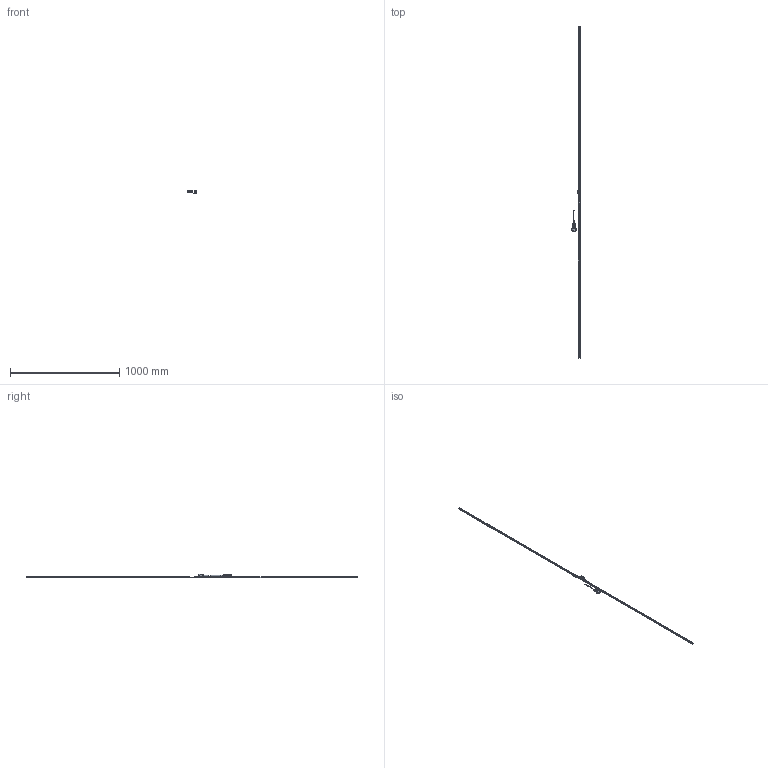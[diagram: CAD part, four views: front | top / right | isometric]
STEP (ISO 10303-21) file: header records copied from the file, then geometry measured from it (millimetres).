
FILE_DESCRIPTION(('Creo Elements/Direct Modeling STEP Export'),'2;1');
FILE_NAME('ST1300-3000F_G.stp','2022-08-16T11:38:46',(''),(''),'Creo Elements/Direct Modeling STEP processor for AP214 (Solid Model)','Creo Elements/Direct Modeling 18.1I 13-Aug-2016 (C) Parametric Technology GmbH','');
FILE_SCHEMA(('AUTOMOTIVE_DESIGN { 1 0 10303 214 1 1 1 1 }'));
Products named in the file (4): Connector; Detector_Head; Scale_3000; ST1300-3000F_G
Assembly tree (3 placements, depth 2):
  ST1300-3000F_G
    Scale_3000
    Detector_Head
    Connector
Bounding box: 83 x 3040 x 30.1 mm (x, y, z)
Volume: 270848.3 mm3; surface area: 157378.1 mm2
Topology: 2 solids, 6 shells, 3987 faces, 10856 edges, 7041 vertices
Faces by surface type: plane 1814, cylinder 1639, extrusion 394, cone 87, torus 26, bspline 23, revolution 4
Entity records: 131098 total; most frequent: CARTESIAN_POINT 31286, ORIENTED_EDGE 21696, DIRECTION 19337, EDGE_CURVE 10844, VERTEX_POINT 7041, VECTOR 6547, AXIS2_PLACEMENT_3D 6392, LINE 6207
